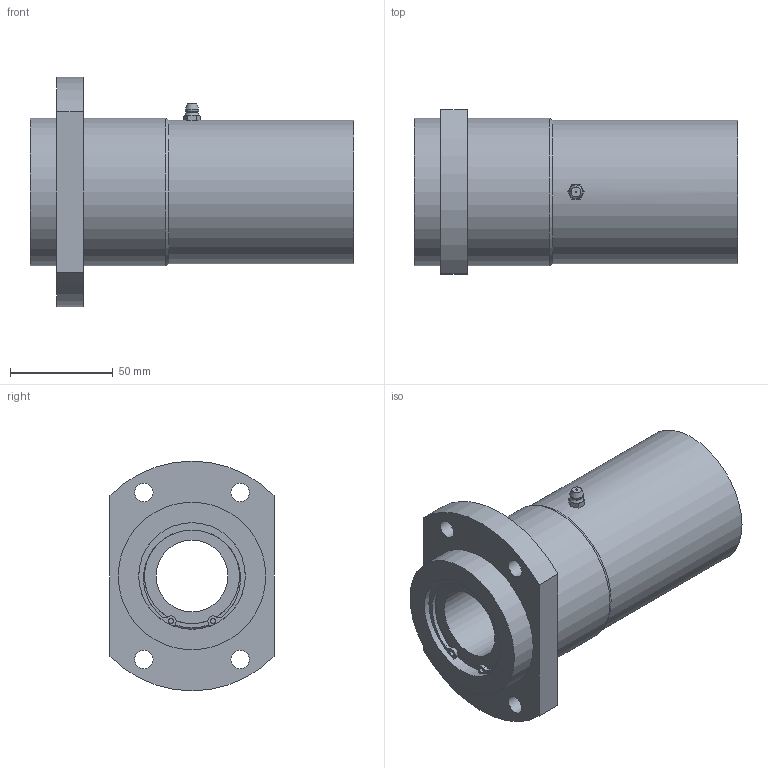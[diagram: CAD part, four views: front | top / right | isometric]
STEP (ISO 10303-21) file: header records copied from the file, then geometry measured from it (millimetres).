
FILE_DESCRIPTION((''),'2;1');
FILE_NAME('D:\製品 (図面)\カタログ用3D\リニアベアリング関連(改)\STEP形式\LFWB\LFWB35.stp','2010-01-22T16:28:28',('Tsuchiya'),(''),'Autodesk Inventor 10','Autodesk Inventor 10','');
FILE_SCHEMA(('AUTOMOTIVE_DESIGN { 1 0 10303 214 1 1 1 1 }'));
Length unit declared in the file: millimetre
Products named in the file (1): LFWB35
Bounding box: 158 x 80 x 112 mm (x, y, z)
Volume: 507855.7 mm3; surface area: 79946 mm2
Topology: 1 solids, 7 shells, 112 faces, 278 edges, 171 vertices
Faces by surface type: bspline 36, plane 34, cylinder 30, cone 8, sphere 2, torus 2
Full cylindrical faces by diameter (mm): 2.5 x2, 9 x4, 35 x2, 46.4 x2, 49 x2, 52 x8, 70 x1, 72 x2
Entity records: 3353 total; most frequent: CARTESIAN_POINT 927, DIRECTION 518, ORIENTED_EDGE 432, AXIS2_PLACEMENT_3D 237, EDGE_CURVE 216, EDGE_LOOP 188, CIRCLE 156, VERTEX_POINT 152
